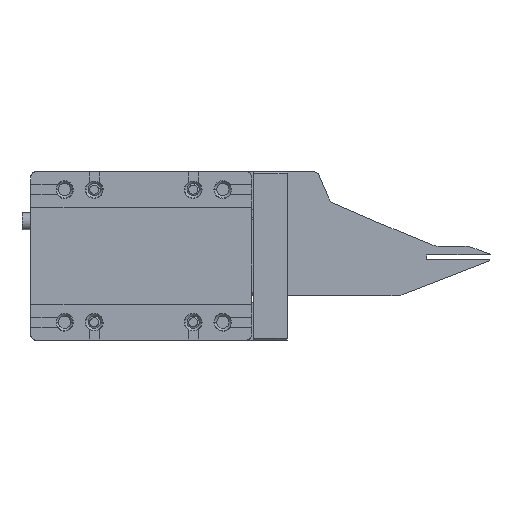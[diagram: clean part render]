
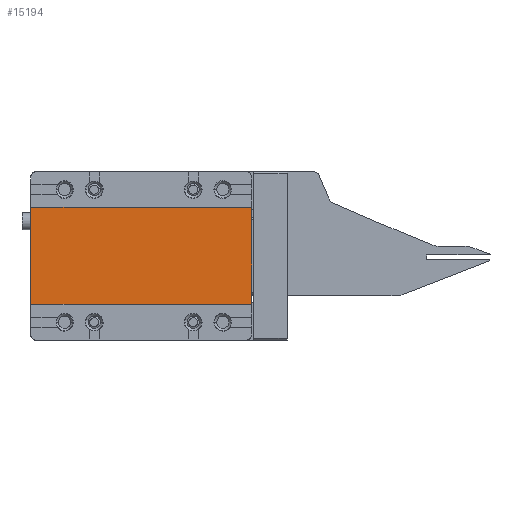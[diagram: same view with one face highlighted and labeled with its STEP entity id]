
A CAD part, top view. The second image highlights one B-rep face of the part: STEP entity #15194.
In plain terms, the highlighted planar face has unit normal (0, 0, 1).
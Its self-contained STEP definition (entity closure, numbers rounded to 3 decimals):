
#189 = DIRECTION ( 'NONE',  ( 0., 0., 1. ) ) ;
#598 = CARTESIAN_POINT ( 'NONE',  ( 2.839, 31.572, 35.356 ) ) ;
#1336 = VECTOR ( 'NONE', #6924, 1000. ) ;
#2727 = VERTEX_POINT ( 'NONE', #26844 ) ;
#5200 = CARTESIAN_POINT ( 'NONE',  ( 25.039, 31.572, 35.356 ) ) ;
#5753 = VERTEX_POINT ( 'NONE', #11274 ) ;
#6516 = VERTEX_POINT ( 'NONE', #13413 ) ;
#6924 = DIRECTION ( 'NONE',  ( 0., -1., 0. ) ) ;
#8087 = DIRECTION ( 'NONE',  ( 0., 1., 0. ) ) ;
#9235 = VERTEX_POINT ( 'NONE', #5200 ) ;
#11274 = CARTESIAN_POINT ( 'NONE',  ( 2.739, 21.772, 35.356 ) ) ;
#13413 = CARTESIAN_POINT ( 'NONE',  ( 25.039, 21.772, 35.356 ) ) ;
#13616 = CARTESIAN_POINT ( 'NONE',  ( 2.839, 21.772, 35.356 ) ) ;
#15194 = ADVANCED_FACE ( 'NONE', ( #33924 ), #19095, .T. ) ;
#15839 = ORIENTED_EDGE ( 'NONE', *, *, #20857, .T. ) ;
#15952 = ORIENTED_EDGE ( 'NONE', *, *, #23474, .T. ) ;
#16273 = LINE ( 'NONE', #21916, #1336 ) ;
#17186 = AXIS2_PLACEMENT_3D ( 'NONE', #23482, #189, #20968 ) ;
#18450 = DIRECTION ( 'NONE',  ( -1., 0., 0. ) ) ;
#18867 = LINE ( 'NONE', #13616, #18937 ) ;
#18937 = VECTOR ( 'NONE', #33689, 1000. ) ;
#19095 = PLANE ( 'NONE',  #17186 ) ;
#20568 = VECTOR ( 'NONE', #8087, 1000. ) ;
#20857 = EDGE_CURVE ( 'NONE', #5753, #6516, #18867, .T. ) ;
#20968 = DIRECTION ( 'NONE',  ( 1., 0., 0. ) ) ;
#21916 = CARTESIAN_POINT ( 'NONE',  ( 2.739, 31.572, 35.356 ) ) ;
#23474 = EDGE_CURVE ( 'NONE', #9235, #2727, #27189, .T. ) ;
#23482 = CARTESIAN_POINT ( 'NONE',  ( 13.839, 26.672, 35.356 ) ) ;
#24271 = ORIENTED_EDGE ( 'NONE', *, *, #36622, .T. ) ;
#25545 = VECTOR ( 'NONE', #18450, 1000. ) ;
#26844 = CARTESIAN_POINT ( 'NONE',  ( 2.739, 31.572, 35.356 ) ) ;
#27189 = LINE ( 'NONE', #598, #25545 ) ;
#28902 = LINE ( 'NONE', #35336, #20568 ) ;
#31663 = EDGE_CURVE ( 'NONE', #6516, #9235, #28902, .T. ) ;
#33689 = DIRECTION ( 'NONE',  ( 1., 0., 0. ) ) ;
#33924 = FACE_OUTER_BOUND ( 'NONE', #35957, .T. ) ;
#35336 = CARTESIAN_POINT ( 'NONE',  ( 25.039, 31.572, 35.356 ) ) ;
#35957 = EDGE_LOOP ( 'NONE', ( #24271, #15839, #36341, #15952 ) ) ;
#36341 = ORIENTED_EDGE ( 'NONE', *, *, #31663, .T. ) ;
#36622 = EDGE_CURVE ( 'NONE', #2727, #5753, #16273, .T. ) ;
